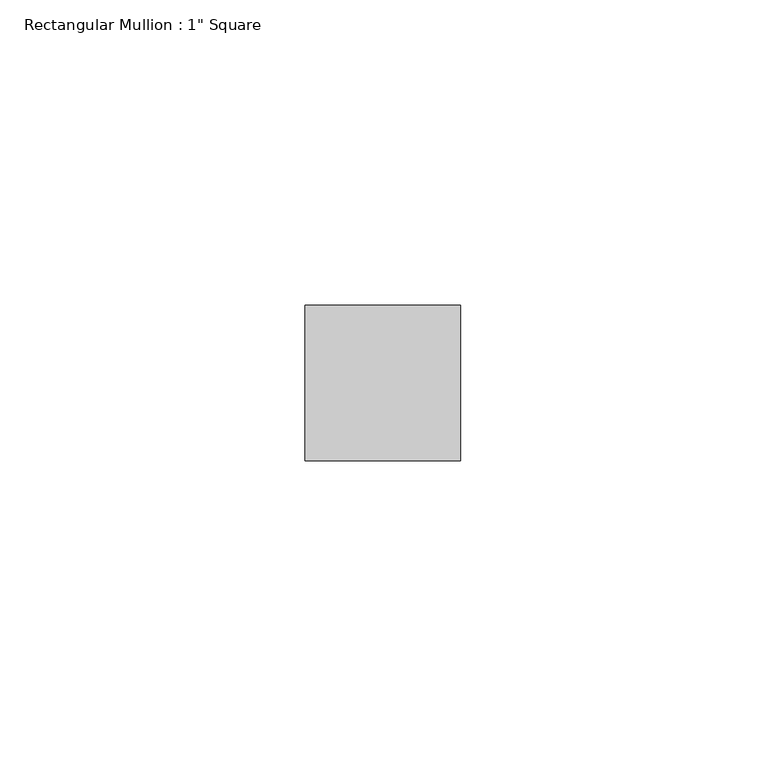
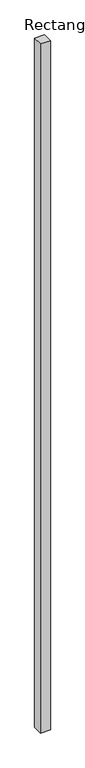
"""IFC4 building model written with IfcOpenShell, lengths in millimetres: member geometry."""

from ifc_helpers import new_model, si_unit, frame, origin, place, context, project, spatial, polyline, outline, extrude, source, transform, mapped, element, save


def member_26d44a89(model_context):
    return source(origin(), model_context, "Body", "SweptSolid", [
        extrude(outline(polyline([(12.7, 12.7), (12.7, -12.7), (-12.7, -12.7), (-12.7, 12.7), (12.7, 12.7)])), frame((0.0, 0.0, -1869.2389279), z_axis=(0.0, 0.0, 1.0), x_axis=(1.0, 0.0, 0.0)), (0.0, 0.0, 1.0), 1869.2389279),
    ])


if __name__ == "__main__":
    model = new_model("IFC4")
    model_context = context("Model", 3, world=origin())
    ifc_project = project(units=[si_unit("LENGTHUNIT", "METRE", prefix="MILLI")], contexts=[model_context])
    site = spatial("IfcSite", under=ifc_project)
    building = spatial("IfcBuilding", under=site)
    placement = place(None, origin())
    member_shape = member_26d44a89(model_context)
    element("IfcMember", 1, ObjectType="Rectangular Mullion : 1\" Square", at=placement, inside=building, context=model_context, shape_type="MappedRepresentation", body=[
        mapped(member_shape, transform((0.0, 0.0, 0.0), x_axis=(1.0, 0.0, 0.0), y_axis=(0.0, 1.0, 0.0), z_axis=(0.0, 0.0, 1.0))),
    ])
    save(model, "model.ifc")
